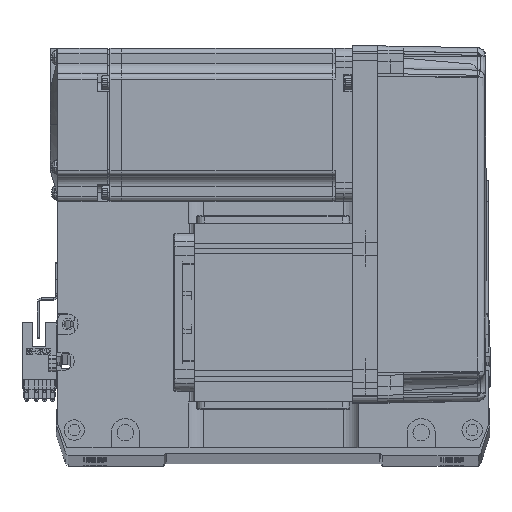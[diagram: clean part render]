
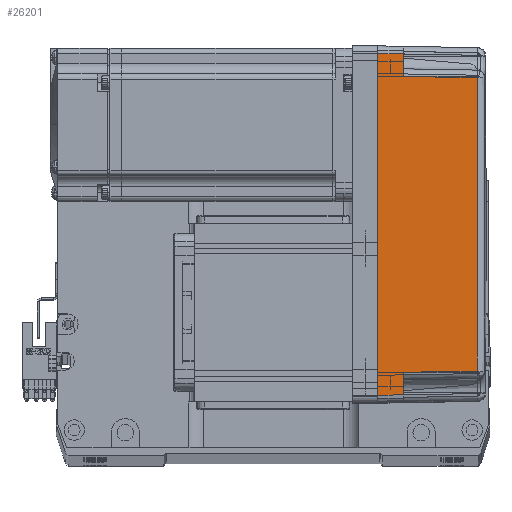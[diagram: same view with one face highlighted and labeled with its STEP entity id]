
A CAD part, top view. The second image highlights one B-rep face of the part: STEP entity #26201.
In plain terms, the highlighted planar face has unit normal (0.018, 0, 1) as drawn and (0, -1, 0.017) by its records, which use the part's own axes.
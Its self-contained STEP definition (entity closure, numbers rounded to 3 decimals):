
#903 = EDGE_CURVE ( 'NONE', #68428, #63257, #11227, .T. ) ;
#1280 = VERTEX_POINT ( 'NONE', #30848 ) ;
#2760 = CARTESIAN_POINT ( 'NONE',  ( -57.495, -35.32, 38.985 ) ) ;
#4489 = CARTESIAN_POINT ( 'NONE',  ( 70., -35.825, 10. ) ) ;
#4977 = AXIS2_PLACEMENT_3D ( 'NONE', #60482, #40059, #50037 ) ;
#5236 = EDGE_CURVE ( 'NONE', #1280, #62949, #16029, .T. ) ;
#6191 = DIRECTION ( 'NONE',  ( -1., 0., 0. ) ) ;
#6955 = VECTOR ( 'NONE', #11707, 1000. ) ;
#7185 = LINE ( 'NONE', #66400, #16260 ) ;
#7400 = CARTESIAN_POINT ( 'NONE',  ( 70., -35.825, 10. ) ) ;
#7432 = CARTESIAN_POINT ( 'NONE',  ( 58., -35.825, 10. ) ) ;
#8827 = FACE_OUTER_BOUND ( 'NONE', #55738, .T. ) ;
#9689 = LINE ( 'NONE', #58640, #18737 ) ;
#11227 = LINE ( 'NONE', #43207, #18634 ) ;
#11707 = DIRECTION ( 'NONE',  ( 0.017, 0.017, 1. ) ) ;
#11948 = VECTOR ( 'NONE', #24731, 1000. ) ;
#14555 = CARTESIAN_POINT ( 'NONE',  ( 57.495, -35.32, 38.985 ) ) ;
#16029 = LINE ( 'NONE', #39934, #11948 ) ;
#16260 = VECTOR ( 'NONE', #60631, 1000. ) ;
#16848 = DIRECTION ( 'NONE',  ( -0.017, 0.017, 1. ) ) ;
#18634 = VECTOR ( 'NONE', #16848, 1000. ) ;
#18737 = VECTOR ( 'NONE', #6191, 1000. ) ;
#19198 = CARTESIAN_POINT ( 'NONE',  ( 19.165, -35.316, 39.181 ) ) ;
#20861 = ORIENTED_EDGE ( 'NONE', *, *, #57780, .T. ) ;
#21216 = ORIENTED_EDGE ( 'NONE', *, *, #54189, .T. ) ;
#24269 = CARTESIAN_POINT ( 'NONE',  ( -19.165, -35.316, 39.181 ) ) ;
#24731 = DIRECTION ( 'NONE',  ( -0.017, 0.017, 1. ) ) ;
#25193 = CARTESIAN_POINT ( 'NONE',  ( -57.495, -35.32, 38.985 ) ) ;
#25280 = DIRECTION ( 'NONE',  ( -1., 0., 0. ) ) ;
#25340 = EDGE_CURVE ( 'NONE', #62949, #68428, #38379, .T. ) ;
#25354 = VERTEX_POINT ( 'NONE', #2760 ) ;
#26201 = ADVANCED_FACE ( 'NONE', ( #8827 ), #49799, .T. ) ;
#27038 = CARTESIAN_POINT ( 'NONE',  ( -66.826, -35.825, 10. ) ) ;
#27578 = LINE ( 'NONE', #58838, #6955 ) ;
#30499 = VERTEX_POINT ( 'NONE', #66290 ) ;
#30848 = CARTESIAN_POINT ( 'NONE',  ( 67., -36., 0. ) ) ;
#32348 = ORIENTED_EDGE ( 'NONE', *, *, #65791, .T. ) ;
#32769 = CARTESIAN_POINT ( 'NONE',  ( -67., -36., 0. ) ) ;
#34984 = VECTOR ( 'NONE', #66140, 1000. ) ;
#36656 = CARTESIAN_POINT ( 'NONE',  ( 66.826, -35.825, 10. ) ) ;
#37188 = VERTEX_POINT ( 'NONE', #27038 ) ;
#38379 = LINE ( 'NONE', #7400, #34984 ) ;
#39934 = CARTESIAN_POINT ( 'NONE',  ( 67., -36., 0. ) ) ;
#39979 = EDGE_CURVE ( 'NONE', #1280, #47496, #9689, .T. ) ;
#40059 = DIRECTION ( 'NONE',  ( 0., -1., 0.017 ) ) ;
#41584 = VECTOR ( 'NONE', #25280, 1000. ) ;
#43207 = CARTESIAN_POINT ( 'NONE',  ( 58., -35.825, 10. ) ) ;
#43244 = LINE ( 'NONE', #4489, #41584 ) ;
#47496 = VERTEX_POINT ( 'NONE', #32769 ) ;
#49052 = B_SPLINE_CURVE_WITH_KNOTS ( 'NONE', 3,
 ( #14555, #19198, #24269, #25193 ),
 .UNSPECIFIED., .F., .F.,
 ( 4, 4 ),
 ( 0., 1. ),
 .UNSPECIFIED. ) ;
#49799 = PLANE ( 'NONE',  #4977 ) ;
#50037 = DIRECTION ( 'NONE',  ( 0., -0.017, -1. ) ) ;
#51709 = ORIENTED_EDGE ( 'NONE', *, *, #39979, .F. ) ;
#52507 = ORIENTED_EDGE ( 'NONE', *, *, #903, .T. ) ;
#54189 = EDGE_CURVE ( 'NONE', #25354, #30499, #7185, .T. ) ;
#55738 = EDGE_LOOP ( 'NONE', ( #67213, #60656, #52507, #32348, #21216, #20861, #56183, #51709 ) ) ;
#56183 = ORIENTED_EDGE ( 'NONE', *, *, #64875, .F. ) ;
#57780 = EDGE_CURVE ( 'NONE', #30499, #37188, #43244, .T. ) ;
#58640 = CARTESIAN_POINT ( 'NONE',  ( 0., -36., 0. ) ) ;
#58838 = CARTESIAN_POINT ( 'NONE',  ( -66.959, -35.958, 2.39 ) ) ;
#60482 = CARTESIAN_POINT ( 'NONE',  ( 70., -36., 0. ) ) ;
#60631 = DIRECTION ( 'NONE',  ( -0.017, -0.017, -1. ) ) ;
#60656 = ORIENTED_EDGE ( 'NONE', *, *, #25340, .T. ) ;
#62949 = VERTEX_POINT ( 'NONE', #36656 ) ;
#63257 = VERTEX_POINT ( 'NONE', #66256 ) ;
#64875 = EDGE_CURVE ( 'NONE', #47496, #37188, #27578, .T. ) ;
#65791 = EDGE_CURVE ( 'NONE', #63257, #25354, #49052, .T. ) ;
#66140 = DIRECTION ( 'NONE',  ( -1., 0., 0. ) ) ;
#66256 = CARTESIAN_POINT ( 'NONE',  ( 57.495, -35.32, 38.985 ) ) ;
#66290 = CARTESIAN_POINT ( 'NONE',  ( -58., -35.825, 10. ) ) ;
#66400 = CARTESIAN_POINT ( 'NONE',  ( -57.495, -35.32, 38.985 ) ) ;
#67213 = ORIENTED_EDGE ( 'NONE', *, *, #5236, .T. ) ;
#68428 = VERTEX_POINT ( 'NONE', #7432 ) ;
